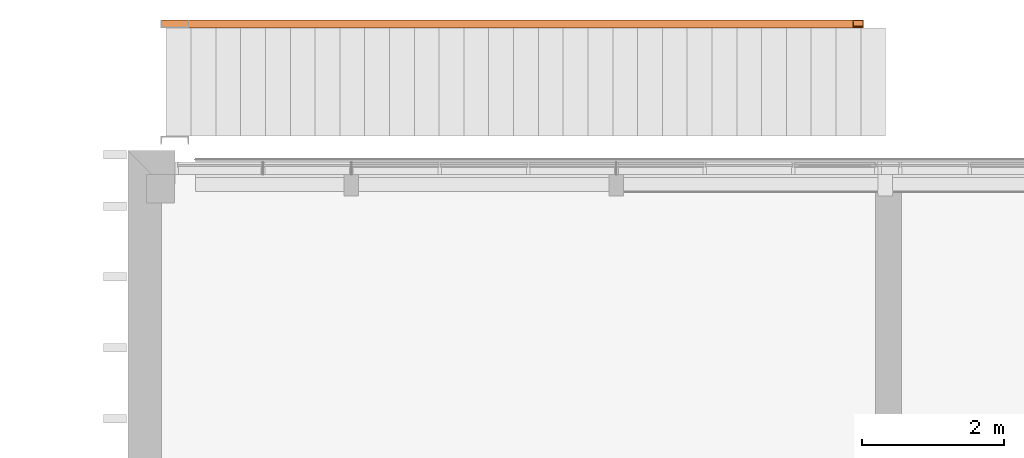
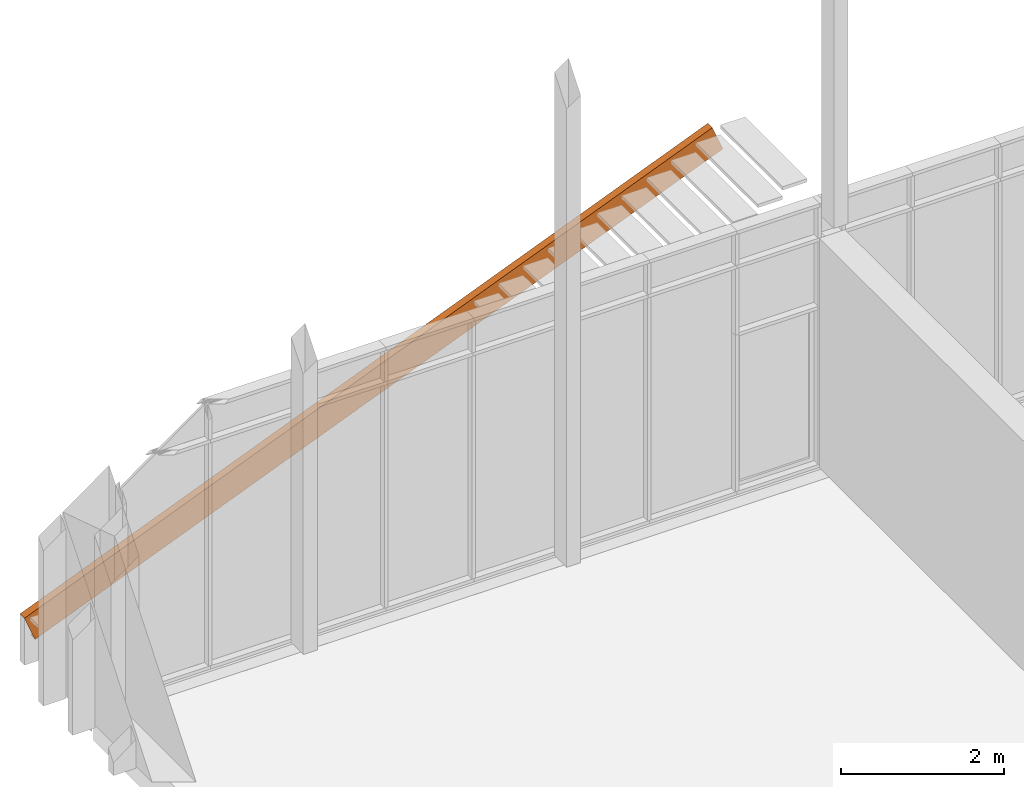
# One storey, part 86 of 89: 1 proxy.
"""IFC2X3 building model written with IfcOpenShell, lengths in millimetres."""

from ifc_helpers import new_model, entity, si_unit, converted_unit, derived_unit, money_unit, point, direction, frame, frame_2d, origin_with_axes, place, context, subcontext, project, spatial, polyline, circle_curve, parameter, trimmed, segment, composite_curve, outline, extrude, material, type_object, element, save


model = new_model("IFC2X3")

# Units and contexts
model_context = context("Model", 3, precision=0.01, world=origin_with_axes(), true_north=direction((0.0, 1.0)))
body_context = subcontext(model_context, "Body", "Model", "MODEL_VIEW")
ifc_project = project(units=[si_unit("LENGTHUNIT", "METRE", prefix="MILLI"), si_unit("AREAUNIT", "SQUARE_METRE"), si_unit("VOLUMEUNIT", "CUBIC_METRE"), converted_unit("PLANEANGLEUNIT", "DEGREE", entity("IfcPlaneAngleMeasure", 0.0174532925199), si_unit("PLANEANGLEUNIT", "RADIAN"), dimensions=[0, 0, 0, 0, 0, 0, 0]), si_unit("SOLIDANGLEUNIT", "STERADIAN"), money_unit("EUR"), converted_unit("TIMEUNIT", "Year", entity("IfcTimeMeasure", 31556926.0), si_unit("TIMEUNIT", "SECOND"), dimensions=[0, 0, 1, 0, 0, 0, 0]), si_unit("MASSUNIT", "GRAM", prefix="KILO"), si_unit("THERMODYNAMICTEMPERATUREUNIT", "DEGREE_CELSIUS"), si_unit("LUMINOUSINTENSITYUNIT", "LUMEN"), si_unit("ENERGYUNIT", "JOULE", prefix="MEGA"), derived_unit("THERMALCONDUCTANCEUNIT", [(si_unit("POWERUNIT", "WATT"), 1), (si_unit("LENGTHUNIT", "METRE"), -1), (si_unit("THERMODYNAMICTEMPERATUREUNIT", "KELVIN"), -1)]), derived_unit("SPECIFICHEATCAPACITYUNIT", [(si_unit("ENERGYUNIT", "JOULE"), 1), (si_unit("MASSUNIT", "GRAM", prefix="KILO"), -1), (si_unit("THERMODYNAMICTEMPERATUREUNIT", "KELVIN"), -1)]), derived_unit("MASSDENSITYUNIT", [(si_unit("MASSUNIT", "GRAM", prefix="KILO"), 1), (si_unit("VOLUMEUNIT", "CUBIC_METRE"), -1)])], contexts=[model_context])

# Site, building, storey
site_placement = place(None, origin_with_axes())
site = spatial("IfcSite", under=ifc_project, at=site_placement, Name="Puškini 31, Narva", CompositionType="ELEMENT")
building_placement = place(site_placement, origin_with_axes())
building = spatial("IfcBuilding", under=site, at=building_placement, Name="Narva Riigigümnaasium", CompositionType="ELEMENT")
storey_placement = place(building_placement, frame((0.0, 0.0, -3300.0), z_axis=(0.0, 0.0, 1.0), x_axis=(1.0, 0.0, 0.0)))
storey = spatial("IfcBuildingStorey", under=building, at=storey_placement, Name="1.korrus -3.3", CompositionType="ELEMENT", Elevation=-3300.0)

# Proxy
ifc_material = material(Name="Teras, S355")
building_element_proxy_type = type_object("IfcBuildingElementProxyType", Name="UPN400 (1) 400 x 110", PredefinedType="NOTDEFINED")
proxy_placement = place(storey_placement, frame((47241.6032447, 256361.09176, 3774.55773394), z_axis=(0.0, 0.0, 1.0), x_axis=(0.0, 1.0, 0.0)))
element("IfcBuildingElementProxy", 1, at=proxy_placement, inside=storey, type_object=building_element_proxy_type, material=ifc_material, Name="U-Channels:UPN400", context=body_context, shape_type="SweptSolid", body=[
    extrude(outline(composite_curve([segment(polyline([(193.311242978, -48.9082397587), (200.0, -48.9082397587), (200.0, 61.0917602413), (-200.0, 61.0917602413), (-200.0, -48.9082397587), (-193.311242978, -48.9082397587)]), True, "CONTINUOUS"), segment(trimmed(circle_curve(frame_2d((-193.311242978, -39.9082397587), x_axis=(0.0, -1.0)), 9.00000000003), [point((-193.311242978, -48.9082397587)), parameter(0.0)], [point((-184.322471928, -40.3576783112)), parameter(87.1375947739)], True, "CARTESIAN"), True, "CONTINUOUS"), segment(polyline([(-184.322471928, -40.3576783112), (-180.805056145, 29.9906373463)]), True, "CONTINUOUS"), segment(trimmed(circle_curve(frame_2d((-162.827514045, 29.0917602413), x_axis=(0.0, 1.0)), 18.0), [point((-180.805056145, 29.9906373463)), parameter(87.1375947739)], [point((-162.827514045, 47.0917602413)), parameter(0.0)], False, "CARTESIAN"), True, "CONTINUOUS"), segment(polyline([(-162.827514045, 47.0917602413), (162.827514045, 47.0917602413)]), True, "CONTINUOUS"), segment(trimmed(circle_curve(frame_2d((162.827514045, 29.0917602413), x_axis=(0.998752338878, 0.0499376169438)), 18.0), [point((162.827514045, 47.0917602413)), parameter(87.1375947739)], [point((180.805056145, 29.9906373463)), parameter(0.0)], False, "CARTESIAN"), True, "CONTINUOUS"), segment(polyline([(180.805056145, 29.9906373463), (184.322471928, -40.3576783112)]), True, "CONTINUOUS"), segment(trimmed(circle_curve(frame_2d((193.311242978, -39.9082397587), x_axis=(-0.998752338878, -0.0499376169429)), 9.00000000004), [point((184.322471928, -40.3576783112)), parameter(0.0)], [point((193.311242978, -48.9082397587)), parameter(87.1375947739)], True, "CARTESIAN"), True, "CONTINUOUS")], self_intersect=False)), frame((0.0, 9766.69552843, -3945.16780519), z_axis=(0.0, 0.927211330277, -0.374538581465), x_axis=(0.0, -0.374538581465, -0.927211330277)), (0.0, 0.0, -1.0), 10533.4083067),
])

save(model, "model.ifc")
